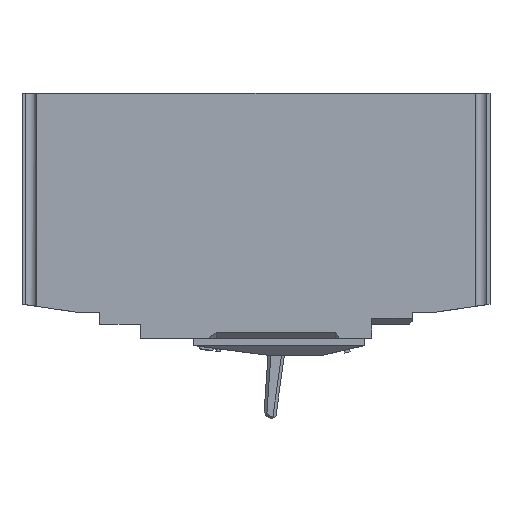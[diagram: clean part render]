
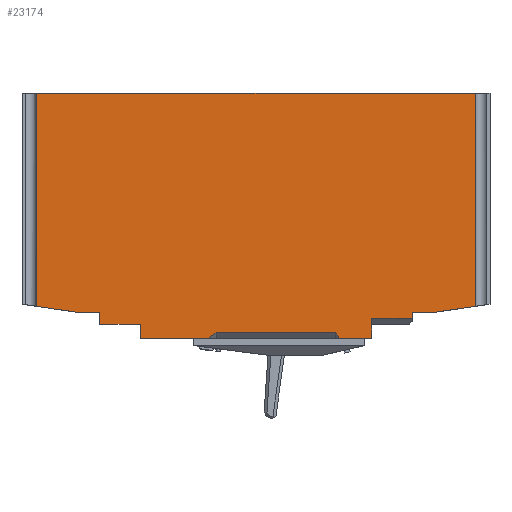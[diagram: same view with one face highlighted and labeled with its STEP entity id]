
A CAD part, left-side view. The second image highlights one B-rep face of the part: STEP entity #23174.
In plain terms, the highlighted planar face has unit normal (-1, 0, 0).
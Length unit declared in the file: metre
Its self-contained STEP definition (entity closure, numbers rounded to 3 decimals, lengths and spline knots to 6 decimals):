
#2847=LINE('',#38281,#5599);
#2851=LINE('',#38289,#5603);
#2853=LINE('',#38294,#5605);
#2856=LINE('',#38299,#5608);
#2857=LINE('',#38302,#5609);
#2859=LINE('',#38304,#5611);
#2860=LINE('',#38307,#5612);
#2862=LINE('',#38311,#5614);
#2864=LINE('',#38316,#5616);
#2867=LINE('',#38324,#5619);
#2887=LINE('',#38837,#5639);
#2888=LINE('',#38841,#5640);
#2890=LINE('',#38847,#5642);
#2893=LINE('',#38855,#5645);
#2894=LINE('',#38859,#5646);
#2898=LINE('',#38871,#5650);
#2900=LINE('',#38875,#5652);
#2902=LINE('',#38878,#5654);
#5599=VECTOR('',#30752,0.0035);
#5603=VECTOR('',#30758,0.001179);
#5605=VECTOR('',#30762,0.021);
#5608=VECTOR('',#30767,0.00166);
#5609=VECTOR('',#30770,0.011925);
#5611=VECTOR('',#30772,0.005625);
#5612=VECTOR('',#30775,0.0025);
#5614=VECTOR('',#30779,0.00715);
#5616=VECTOR('',#30785,0.002);
#5619=VECTOR('',#30792,0.00335);
#5639=VECTOR('',#30966,0.007782);
#5640=VECTOR('',#30971,0.037373);
#5642=VECTOR('',#30977,0.0769);
#5645=VECTOR('',#30986,0.037373);
#5646=VECTOR('',#30991,0.007782);
#5650=VECTOR('',#31005,0.00335);
#5652=VECTOR('',#31009,0.001);
#5654=VECTOR('',#31013,0.00715);
#7188=FACE_OUTER_BOUND('',#8512,.T.);
#8512=EDGE_LOOP('',(#21069,#21070,#21071,#21072,#21073,#21074,#21075,#21076,
#21077,#21078,#21079,#21080,#21081,#21082,#21083,#21084,#21085,#21086));
#11119=VERTEX_POINT('',#38278);
#11120=VERTEX_POINT('',#38280);
#11122=VERTEX_POINT('',#38285);
#11123=VERTEX_POINT('',#38287);
#11125=VERTEX_POINT('',#38293);
#11126=VERTEX_POINT('',#38297);
#11127=VERTEX_POINT('',#38301);
#11128=VERTEX_POINT('',#38306);
#11129=VERTEX_POINT('',#38310);
#11130=VERTEX_POINT('',#38315);
#11133=VERTEX_POINT('',#38323);
#11182=VERTEX_POINT('',#38836);
#11183=VERTEX_POINT('',#38840);
#11185=VERTEX_POINT('',#38846);
#11187=VERTEX_POINT('',#38854);
#11188=VERTEX_POINT('',#38858);
#11191=VERTEX_POINT('',#38870);
#11192=VERTEX_POINT('',#38874);
#14374=EDGE_CURVE('',#11120,#11119,#2847,.T.);
#14378=EDGE_CURVE('',#11123,#11122,#2851,.T.);
#14380=EDGE_CURVE('',#11122,#11125,#2853,.T.);
#14383=EDGE_CURVE('',#11126,#11125,#2856,.T.);
#14384=EDGE_CURVE('',#11126,#11127,#2857,.T.);
#14386=EDGE_CURVE('',#11120,#11123,#2859,.T.);
#14387=EDGE_CURVE('',#11128,#11127,#2860,.T.);
#14389=EDGE_CURVE('',#11128,#11129,#2862,.T.);
#14392=EDGE_CURVE('',#11130,#11129,#2864,.T.);
#14396=EDGE_CURVE('',#11130,#11133,#2867,.T.);
#14469=EDGE_CURVE('',#11133,#11182,#2887,.T.);
#14471=EDGE_CURVE('',#11182,#11183,#2888,.T.);
#14474=EDGE_CURVE('',#11183,#11185,#2890,.T.);
#14478=EDGE_CURVE('',#11185,#11187,#2893,.T.);
#14480=EDGE_CURVE('',#11187,#11188,#2894,.T.);
#14486=EDGE_CURVE('',#11188,#11191,#2898,.T.);
#14488=EDGE_CURVE('',#11191,#11192,#2900,.T.);
#14490=EDGE_CURVE('',#11192,#11119,#2902,.T.);
#21069=ORIENTED_EDGE('',*,*,#14488,.F.);
#21070=ORIENTED_EDGE('',*,*,#14486,.F.);
#21071=ORIENTED_EDGE('',*,*,#14480,.F.);
#21072=ORIENTED_EDGE('',*,*,#14478,.F.);
#21073=ORIENTED_EDGE('',*,*,#14474,.F.);
#21074=ORIENTED_EDGE('',*,*,#14471,.F.);
#21075=ORIENTED_EDGE('',*,*,#14469,.F.);
#21076=ORIENTED_EDGE('',*,*,#14396,.F.);
#21077=ORIENTED_EDGE('',*,*,#14392,.T.);
#21078=ORIENTED_EDGE('',*,*,#14389,.F.);
#21079=ORIENTED_EDGE('',*,*,#14387,.T.);
#21080=ORIENTED_EDGE('',*,*,#14384,.F.);
#21081=ORIENTED_EDGE('',*,*,#14383,.T.);
#21082=ORIENTED_EDGE('',*,*,#14380,.F.);
#21083=ORIENTED_EDGE('',*,*,#14378,.F.);
#21084=ORIENTED_EDGE('',*,*,#14386,.F.);
#21085=ORIENTED_EDGE('',*,*,#14374,.T.);
#21086=ORIENTED_EDGE('',*,*,#14490,.F.);
#22002=PLANE('',#24876);
#23174=ADVANCED_FACE('',(#7188),#22002,.F.);
#24876=AXIS2_PLACEMENT_3D('',#38879,#31014,#31015);
#30752=DIRECTION('',(0.,0.,1.));
#30758=DIRECTION('',(0.,0.53,0.848));
#30762=DIRECTION('',(0.,1.,0.));
#30767=DIRECTION('',(0.,-0.798,0.602));
#30770=DIRECTION('',(0.,1.,0.));
#30772=DIRECTION('',(0.,1.,0.));
#30775=DIRECTION('',(0.,0.,-1.));
#30779=DIRECTION('',(0.,1.,0.));
#30785=DIRECTION('',(0.,0.,-1.));
#30792=DIRECTION('',(0.,1.,0.));
#30966=DIRECTION('',(0.,0.989,0.145));
#30971=DIRECTION('',(0.,0.,1.));
#30977=DIRECTION('',(0.,-1.,0.));
#30986=DIRECTION('',(0.,0.,-1.));
#30991=DIRECTION('',(0.,0.989,-0.145));
#31005=DIRECTION('',(0.,1.,0.));
#31009=DIRECTION('',(0.,0.,-1.));
#31013=DIRECTION('',(0.,1.,0.));
#31014=DIRECTION('center_axis',(1.,0.,0.));
#31015=DIRECTION('ref_axis',(0.,0.,-1.));
#38278=CARTESIAN_POINT('',(-0.0225,-0.02025,-0.0025));
#38280=CARTESIAN_POINT('',(-0.0225,-0.02025,-0.006));
#38281=CARTESIAN_POINT('',(-0.0225,-0.02025,-0.006));
#38285=CARTESIAN_POINT('',(-0.0225,-0.014,-0.005));
#38287=CARTESIAN_POINT('',(-0.0225,-0.014625,-0.006));
#38289=CARTESIAN_POINT('',(-0.0225,-0.014625,-0.006));
#38293=CARTESIAN_POINT('',(-0.0225,0.007,-0.005));
#38294=CARTESIAN_POINT('',(-0.0225,-0.014,-0.005));
#38297=CARTESIAN_POINT('',(-0.0225,0.008325,-0.006));
#38299=CARTESIAN_POINT('',(-0.0225,0.008325,-0.006));
#38301=CARTESIAN_POINT('',(-0.0225,0.02025,-0.006));
#38302=CARTESIAN_POINT('',(-0.0225,0.008325,-0.006));
#38304=CARTESIAN_POINT('',(-0.0225,-0.02025,-0.006));
#38306=CARTESIAN_POINT('',(-0.0225,0.02025,-0.0035));
#38307=CARTESIAN_POINT('',(-0.0225,0.02025,-0.0035));
#38310=CARTESIAN_POINT('',(-0.0225,0.0274,-0.0035));
#38311=CARTESIAN_POINT('',(-0.0225,0.02025,-0.0035));
#38315=CARTESIAN_POINT('',(-0.0225,0.0274,-0.0015));
#38316=CARTESIAN_POINT('',(-0.0225,0.0274,-0.0015));
#38323=CARTESIAN_POINT('',(-0.0225,0.03075,-0.0015));
#38324=CARTESIAN_POINT('',(-0.0225,0.0274,-0.0015));
#38836=CARTESIAN_POINT('',(-0.0225,0.03845,-0.000373));
#38837=CARTESIAN_POINT('',(-0.0225,0.03075,-0.0015));
#38840=CARTESIAN_POINT('',(-0.0225,0.03845,0.037));
#38841=CARTESIAN_POINT('',(-0.0225,0.03845,-0.000373));
#38846=CARTESIAN_POINT('',(-0.0225,-0.03845,0.037));
#38847=CARTESIAN_POINT('',(-0.0225,0.03845,0.037));
#38854=CARTESIAN_POINT('',(-0.0225,-0.03845,-0.000373));
#38855=CARTESIAN_POINT('',(-0.0225,-0.03845,0.037));
#38858=CARTESIAN_POINT('',(-0.0225,-0.03075,-0.0015));
#38859=CARTESIAN_POINT('',(-0.0225,-0.03845,-0.000373));
#38870=CARTESIAN_POINT('',(-0.0225,-0.0274,-0.0015));
#38871=CARTESIAN_POINT('',(-0.0225,-0.03075,-0.0015));
#38874=CARTESIAN_POINT('',(-0.0225,-0.0274,-0.0025));
#38875=CARTESIAN_POINT('',(-0.0225,-0.0274,-0.0015));
#38878=CARTESIAN_POINT('',(-0.0225,-0.0274,-0.0025));
#38879=CARTESIAN_POINT('Origin',(-0.0225,0.,0.));
